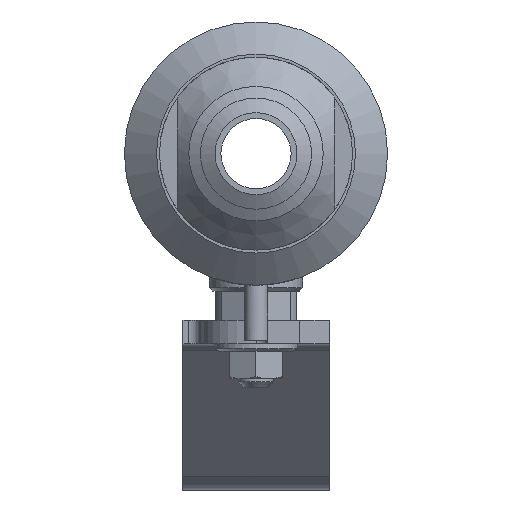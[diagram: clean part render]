
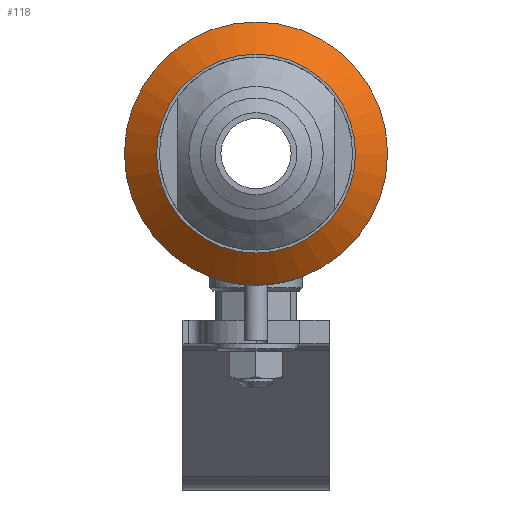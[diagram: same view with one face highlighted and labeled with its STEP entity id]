
A CAD part, left-side view. The second image highlights one B-rep face of the part: STEP entity #118.
In plain terms, the highlighted conical face has half-angle 50 degrees and reference radius 19.75 mm.
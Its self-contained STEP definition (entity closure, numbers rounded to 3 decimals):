
#118=ADVANCED_FACE('',(#939),#941,.T.);
#939=FACE_OUTER_BOUND('',#940,.T.);
#940=EDGE_LOOP('',(#1894,#1895,#1896,#1897));
#941=CONICAL_SURFACE('',#942,19.75,0.873);
#942=AXIS2_PLACEMENT_3D('',#943,#944,#945);
#943=CARTESIAN_POINT('',(-17.692,0.,0.));
#944=DIRECTION('',(1.,0.,0.));
#945=DIRECTION('',(0.,1.,0.));
#1894=ORIENTED_EDGE('',*,*,#2929,.T.);
#1895=ORIENTED_EDGE('',*,*,#2921,.T.);
#1896=ORIENTED_EDGE('',*,*,#2929,.F.);
#1897=ORIENTED_EDGE('',*,*,#2930,.F.);
#2921=EDGE_CURVE('',#3207,#3207,#3209,.T.);
#2929=EDGE_CURVE('',#3221,#3207,#3222,.T.);
#2930=EDGE_CURVE('',#3221,#3221,#3223,.T.);
#3207=VERTEX_POINT('',#4292);
#3209=CIRCLE('',#4296,22.5);
#3221=VERTEX_POINT('',#4329);
#3222=LINE('',#4330,#4331);
#3223=CIRCLE('',#4333,17.);
#4292=CARTESIAN_POINT('',(-15.385,-22.5,0.));
#4296=AXIS2_PLACEMENT_3D('',#4297,#4298,#4299);
#4297=CARTESIAN_POINT('',(-15.385,0.,0.));
#4298=DIRECTION('',(-1.,-0.,0.));
#4299=DIRECTION('',(0.,-1.,0.));
#4329=CARTESIAN_POINT('',(-20.,-17.,0.));
#4330=CARTESIAN_POINT('',(-20.,-17.,0.));
#4331=VECTOR('',#4332,1.);
#4332=DIRECTION('',(0.643,-0.766,0.));
#4333=AXIS2_PLACEMENT_3D('',#4334,#4335,#4336);
#4334=CARTESIAN_POINT('',(-20.,0.,0.));
#4335=DIRECTION('',(-1.,-0.,-0.));
#4336=DIRECTION('',(0.,-1.,0.));
